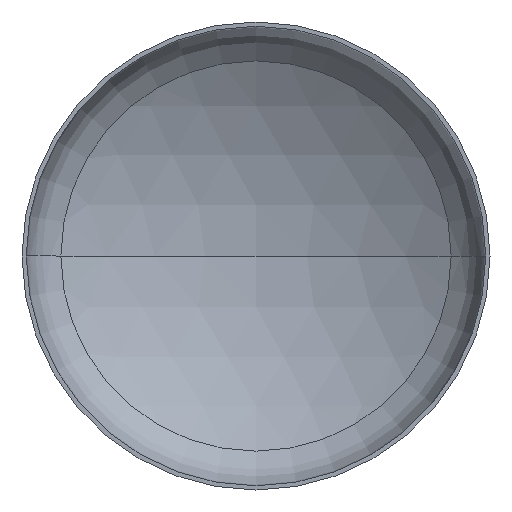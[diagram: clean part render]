
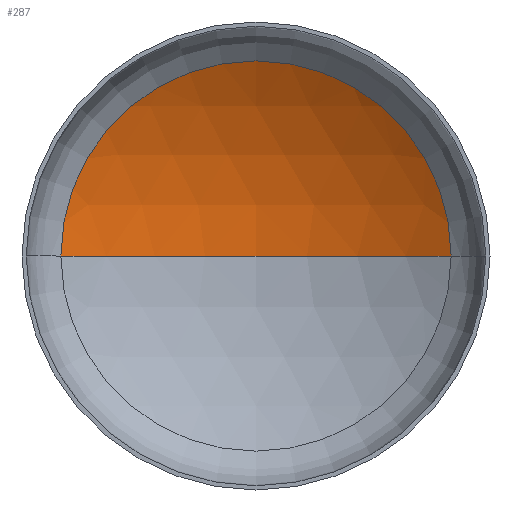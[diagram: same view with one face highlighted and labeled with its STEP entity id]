
A CAD part, front view. The second image highlights one B-rep face of the part: STEP entity #287.
In plain terms, the highlighted spherical face has radius 2720 mm.
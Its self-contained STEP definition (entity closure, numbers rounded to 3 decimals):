
#2 = DIRECTION ( 'NONE',  ( 0., 0., -1. ) ) ;
#4 = DIRECTION ( 'NONE',  ( 0., 0., 1. ) ) ;
#8 = CARTESIAN_POINT ( 'NONE',  ( 0., -1773.31, 0. ) ) ;
#18 = AXIS2_PLACEMENT_3D ( 'NONE', #96, #382, #110 ) ;
#19 = AXIS2_PLACEMENT_3D ( 'NONE', #8, #4, #363 ) ;
#25 = AXIS2_PLACEMENT_3D ( 'NONE', #264, #2, #331 ) ;
#27 = AXIS2_PLACEMENT_3D ( 'NONE', #186, #188, #189 ) ;
#34 = EDGE_LOOP ( 'NONE', ( #77, #252, #128 ) ) ;
#70 = EDGE_CURVE ( 'NONE', #182, #95, #148, .T. ) ;
#71 = EDGE_CURVE ( 'NONE', #146, #182, #406, .T. ) ;
#72 = EDGE_CURVE ( 'NONE', #146, #95, #284, .T. ) ;
#77 = ORIENTED_EDGE ( 'NONE', *, *, #72, .F. ) ;
#95 = VERTEX_POINT ( 'NONE', #239 ) ;
#96 = CARTESIAN_POINT ( 'NONE',  ( 0., -1773.31, 0. ) ) ;
#110 = DIRECTION ( 'NONE',  ( -1., 0., 0. ) ) ;
#128 = ORIENTED_EDGE ( 'NONE', *, *, #70, .T. ) ;
#146 = VERTEX_POINT ( 'NONE', #210 ) ;
#148 = CIRCLE ( 'NONE', #27, 1417.622 ) ;
#182 = VERTEX_POINT ( 'NONE', #208 ) ;
#186 = CARTESIAN_POINT ( 'NONE',  ( 0., 548.058, 0. ) ) ;
#188 = DIRECTION ( 'NONE',  ( 0., -1., 0. ) ) ;
#189 = DIRECTION ( 'NONE',  ( 1., 0., 0. ) ) ;
#208 = CARTESIAN_POINT ( 'NONE',  ( 1417.622, 548.058, 0. ) ) ;
#210 = CARTESIAN_POINT ( 'NONE',  ( 0., 946.69, 0. ) ) ;
#239 = CARTESIAN_POINT ( 'NONE',  ( -1417.622, 548.058, 0. ) ) ;
#252 = ORIENTED_EDGE ( 'NONE', *, *, #71, .T. ) ;
#264 = CARTESIAN_POINT ( 'NONE',  ( 0., -1773.31, 0. ) ) ;
#266 = SPHERICAL_SURFACE ( 'NONE', #18, 2720. ) ;
#284 = CIRCLE ( 'NONE', #19, 2720. ) ;
#287 = ADVANCED_FACE ( 'NONE', ( #396 ), #266, .F. ) ;
#331 = DIRECTION ( 'NONE',  ( -1., 0., 0. ) ) ;
#363 = DIRECTION ( 'NONE',  ( 1., 0., 0. ) ) ;
#382 = DIRECTION ( 'NONE',  ( 0., 0., -1. ) ) ;
#396 = FACE_OUTER_BOUND ( 'NONE', #34, .T. ) ;
#406 = CIRCLE ( 'NONE', #25, 2720. ) ;
